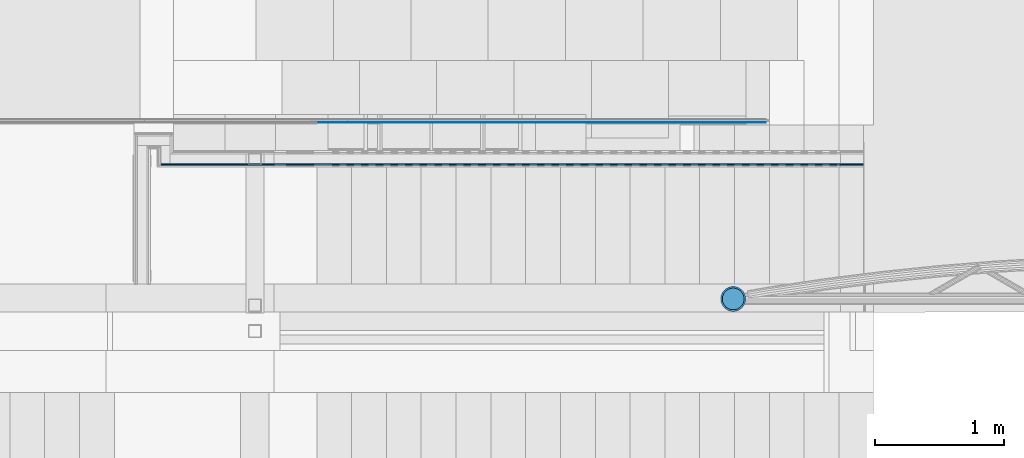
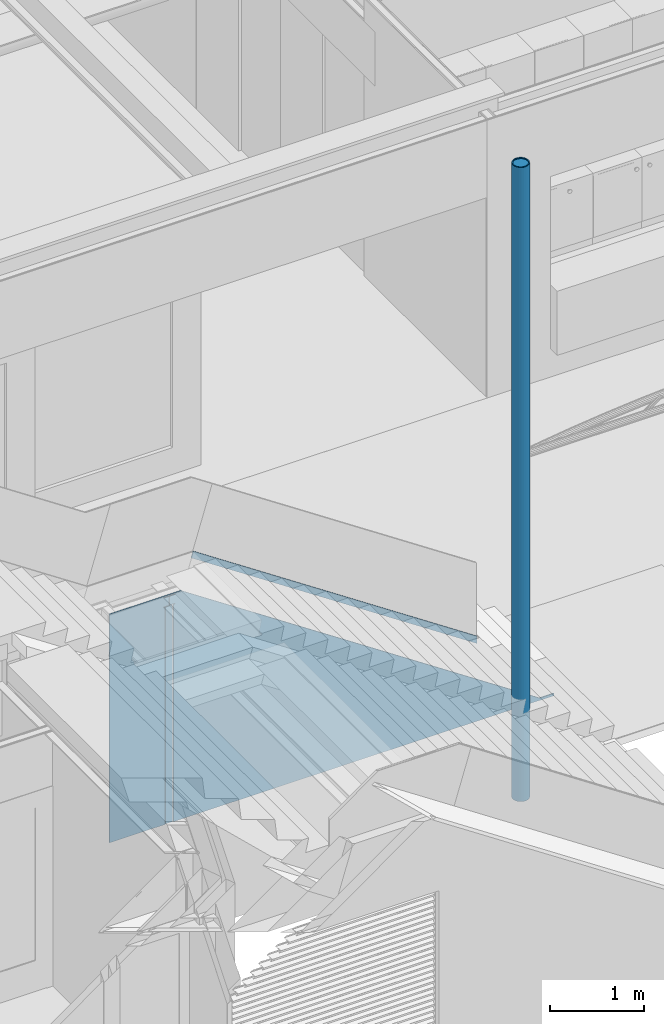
# One storey, part 61 of 165: 4 building element parts, 3 elements without a shape of their own.
"""IFC2X3 building model written with IfcOpenShell, lengths in millimetres."""

from ifc_helpers import new_model, entity, si_unit, converted_unit, derived_unit, money_unit, direction, frame, origin_with_axes, place, context, subcontext, project, spatial, faceted_brep, material, type_object, element, aggregate, save


model = new_model("IFC2X3")

# Units and contexts
model_context = context("Model", 3, precision=0.01, world=origin_with_axes(), true_north=direction((0.0, 1.0)))
body_context = subcontext(model_context, "Body", "Model", "MODEL_VIEW")
ifc_project = project(units=[si_unit("LENGTHUNIT", "METRE", prefix="MILLI"), si_unit("AREAUNIT", "SQUARE_METRE"), si_unit("VOLUMEUNIT", "CUBIC_METRE"), converted_unit("PLANEANGLEUNIT", "DEGREE", entity("IfcPlaneAngleMeasure", 0.0174532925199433), si_unit("PLANEANGLEUNIT", "RADIAN"), dimensions=[0, 0, 0, 0, 0, 0, 0]), money_unit("EUR"), converted_unit("TIMEUNIT", "Year", entity("IfcTimeMeasure", 31556926.0), si_unit("TIMEUNIT", "SECOND"), dimensions=[0, 0, 1, 0, 0, 0, 0]), si_unit("MASSUNIT", "GRAM", prefix="KILO"), si_unit("THERMODYNAMICTEMPERATUREUNIT", "DEGREE_CELSIUS"), si_unit("LUMINOUSINTENSITYUNIT", "LUMEN"), si_unit("ENERGYUNIT", "JOULE", prefix="MEGA"), derived_unit("THERMALCONDUCTANCEUNIT", [(si_unit("POWERUNIT", "WATT"), 1), (si_unit("LENGTHUNIT", "METRE"), -1), (si_unit("THERMODYNAMICTEMPERATUREUNIT", "KELVIN"), -1)]), derived_unit("SPECIFICHEATCAPACITYUNIT", [(si_unit("ENERGYUNIT", "JOULE"), 1), (si_unit("MASSUNIT", "GRAM", prefix="KILO"), -1), (si_unit("THERMODYNAMICTEMPERATUREUNIT", "KELVIN"), -1)]), derived_unit("MASSDENSITYUNIT", [(si_unit("MASSUNIT", "GRAM", prefix="KILO"), 1), (si_unit("VOLUMEUNIT", "CUBIC_METRE"), -1)])], contexts=[model_context])

# Site, building, storey
site_placement = place(None, origin_with_axes())
site = spatial("IfcSite", under=ifc_project, at=site_placement, Name="Site", CompositionType="ELEMENT")
building_placement = place(site_placement, origin_with_axes())
building = spatial("IfcBuilding", under=site, at=building_placement, Name="Naam gebouw", CompositionType="ELEMENT")
storey_placement = place(building_placement, origin_with_axes())
storey = spatial("IfcBuildingStorey", under=building, at=storey_placement, Name="Begane grond", CompositionType="ELEMENT", Elevation=0.0)

# Column, building element parts
column_type = type_object("IfcColumnType", Name="193.7X12.5 194 x 194", PredefinedType="COLUMN")
column_placement = place(storey_placement, frame((17699.99915210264, 4579.999999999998, -425.0), z_axis=(0.0, 0.0, 1.0), x_axis=(1.0, 0.0, 0.0)))
column = element("IfcColumn", 1, at=column_placement, inside=storey, type_object=column_type, Name="28_Kolom-x", ObjectType="COLUMN")
ifc_material_1 = material(Name="Beton gewapend C")
building_element_part_1_placement = place(column_placement, origin_with_axes())
building_element_part_1 = element("IfcBuildingElementPart", 2, at=building_element_part_1_placement, material=ifc_material_1, Name="Beton gewapend C", context=body_context, shape_type="Brep", body=[
    faceted_brep([(80.93323232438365, 23.76414116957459, 7959.999999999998), (84.35000000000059, 0.0, 7959.999999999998), (84.35000000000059, 0.0, 0.0), (80.93323232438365, 23.76414116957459, 0.0), (80.93323232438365, -23.76414116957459, 7959.999999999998), (70.95973549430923, 45.60305295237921, 7959.999999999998), (55.23750290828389, 63.74747659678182, 7959.999999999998), (35.04025634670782, 76.72745880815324, 7959.999999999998), (12.00425660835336, 83.49143862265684, 7959.999999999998), (-12.00425660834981, 83.49143862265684, 7959.999999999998), (-35.04025634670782, 76.72745880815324, 7959.999999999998), (-55.23750290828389, 63.74747659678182, 7959.999999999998), (-70.95973549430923, 45.6030529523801, 7959.999999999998), (-80.93323232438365, 23.76414116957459, 7959.999999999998), (-84.35000000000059, 0.0, 7959.999999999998), (-80.93323232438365, -23.76414116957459, 7959.999999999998), (-70.95973549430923, -45.60305295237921, 7959.999999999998), (-55.23750290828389, -63.74747659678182, 7959.999999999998), (-35.04025634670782, -76.72745880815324, 7959.999999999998), (-12.00425660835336, -83.49143862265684, 7959.999999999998), (12.00425660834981, -83.49143862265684, 7959.999999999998), (35.04025634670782, -76.72745880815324, 7959.999999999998), (55.23750290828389, -63.74747659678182, 7959.999999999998), (70.95973549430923, -45.6030529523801, 7959.999999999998), (80.93323232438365, -23.76414116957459, 0.0), (70.95973549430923, -45.6030529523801, 0.0), (55.23750290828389, -63.74747659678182, 0.0), (35.04025634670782, -76.72745880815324, 0.0), (12.00425660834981, -83.49143862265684, 0.0), (-12.00425660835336, -83.49143862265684, 0.0), (-35.04025634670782, -76.72745880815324, 0.0), (-55.23750290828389, -63.74747659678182, 0.0), (-70.95973549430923, -45.60305295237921, 0.0), (-80.93323232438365, -23.76414116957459, 0.0), (-84.35000000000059, 0.0, 0.0), (-80.93323232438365, 23.76414116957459, 0.0), (-70.95973549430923, 45.6030529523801, 0.0), (-55.23750290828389, 63.74747659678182, 0.0), (-35.04025634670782, 76.72745880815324, 0.0), (-12.00425660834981, 83.49143862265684, 0.0), (12.00425660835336, 83.49143862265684, 0.0), (35.04025634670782, 76.72745880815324, 0.0), (55.23750290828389, 63.74747659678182, 0.0), (70.95973549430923, 45.60305295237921, 0.0)], [[[0, 1, 2, 3]], [[4, 1, 0, 5, 6, 7, 8, 9, 10, 11, 12, 13, 14, 15, 16, 17, 18, 19, 20, 21, 22, 23]], [[1, 4, 24, 2]], [[3, 2, 24, 25, 26, 27, 28, 29, 30, 31, 32, 33, 34, 35, 36, 37, 38, 39, 40, 41, 42, 43]], [[5, 0, 3, 43]], [[6, 5, 43, 42]], [[7, 6, 42, 41]], [[8, 7, 41, 40]], [[9, 8, 40, 39]], [[10, 9, 39, 38]], [[11, 10, 38, 37]], [[12, 11, 37, 36]], [[13, 12, 36, 35]], [[14, 13, 35, 34]], [[15, 14, 34, 33]], [[16, 15, 33, 32]], [[17, 16, 32, 31]], [[18, 17, 31, 30]], [[19, 18, 30, 29]], [[20, 19, 29, 28]], [[21, 20, 28, 27]], [[22, 21, 27, 26]], [[23, 22, 26, 25]], [[4, 23, 25, 24]]]),
    faceted_brep([(84.35000000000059, 0.0, 8210.000002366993), (80.93323232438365, -23.76414116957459, 8210.000002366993), (80.93323232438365, -23.76414116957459, 7980.000029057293), (84.35000000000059, 0.0, 7980.000029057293), (80.93323232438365, 23.76414116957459, 8210.000002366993), (70.95973549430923, 45.60305295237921, 8210.000002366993), (55.23750290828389, 63.74747659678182, 8210.000002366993), (35.04025634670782, 76.72745880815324, 8210.000002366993), (12.00425660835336, 83.49143862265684, 8210.000002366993), (-12.00425660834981, 83.49143862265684, 8210.000002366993), (-35.04025634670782, 76.72745880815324, 8210.000002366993), (-55.23750290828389, 63.74747659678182, 8210.000002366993), (-70.95973549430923, 45.6030529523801, 8210.000002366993), (-80.93323232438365, 23.76414116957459, 8210.000002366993), (-84.35000000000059, 0.0, 8210.000002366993), (-80.93323232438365, -23.76414116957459, 8210.000002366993), (-70.95973549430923, -45.60305295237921, 8210.000002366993), (-55.23750290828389, -63.74747659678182, 8210.000002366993), (-35.04025634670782, -76.72745880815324, 8210.000002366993), (-12.00425660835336, -83.49143862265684, 8210.000002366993), (12.00425660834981, -83.49143862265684, 8210.000002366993), (35.04025634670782, -76.72745880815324, 8210.000002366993), (55.23750290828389, -63.74747659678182, 8210.000002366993), (70.95973549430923, -45.6030529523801, 8210.000002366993), (70.95973549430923, -45.6030529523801, 7980.000029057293), (80.93323232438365, 23.76414116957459, 7980.000029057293), (55.23750290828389, -63.74747659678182, 7980.000029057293), (35.04025634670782, -76.72745880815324, 7980.000029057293), (12.00425660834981, -83.49143862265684, 7980.000029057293), (-12.00425660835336, -83.49143862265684, 7980.000029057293), (-35.04025634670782, -76.72745880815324, 7980.000029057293), (-55.23750290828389, -63.74747659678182, 7980.000029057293), (-70.95973549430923, -45.60305295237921, 7980.000029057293), (-80.93323232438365, -23.76414116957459, 7980.000029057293), (-84.35000000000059, 0.0, 7980.000029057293), (-80.93323232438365, 23.76414116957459, 7980.000029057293), (-70.95973549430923, 45.6030529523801, 7980.000029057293), (-55.23750290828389, 63.74747659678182, 7980.000029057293), (-35.04025634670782, 76.72745880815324, 7980.000029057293), (-12.00425660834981, 83.49143862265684, 7980.000029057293), (12.00425660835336, 83.49143862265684, 7980.000029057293), (35.04025634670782, 76.72745880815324, 7980.000029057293), (55.23750290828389, 63.74747659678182, 7980.000029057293), (70.95973549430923, 45.60305295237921, 7980.000029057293)], [[[0, 1, 2, 3]], [[1, 0, 4, 5, 6, 7, 8, 9, 10, 11, 12, 13, 14, 15, 16, 17, 18, 19, 20, 21, 22, 23]], [[1, 23, 24, 2]], [[25, 3, 2, 24, 26, 27, 28, 29, 30, 31, 32, 33, 34, 35, 36, 37, 38, 39, 40, 41, 42, 43]], [[4, 0, 3, 25]], [[5, 4, 25, 43]], [[6, 5, 43, 42]], [[7, 6, 42, 41]], [[8, 7, 41, 40]], [[9, 8, 40, 39]], [[10, 9, 39, 38]], [[11, 10, 38, 37]], [[12, 11, 37, 36]], [[13, 12, 36, 35]], [[14, 13, 35, 34]], [[15, 14, 34, 33]], [[16, 15, 33, 32]], [[17, 16, 32, 31]], [[18, 17, 31, 30]], [[19, 18, 30, 29]], [[20, 19, 29, 28]], [[21, 20, 28, 27]], [[22, 21, 27, 26]], [[23, 22, 26, 24]]]),
])
ifc_material_2 = material(Name="Metaal - Staal C")
building_element_part_2_placement = place(column_placement, origin_with_axes())
building_element_part_2 = element("IfcBuildingElementPart", 3, at=building_element_part_2_placement, material=ifc_material_2, Name="Metaal - Staal C", context=body_context, shape_type="Brep", body=[
    faceted_brep([(96.84999999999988, 0.0, 0.0), (92.92689449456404, 27.28579813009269, 0.0), (92.92689449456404, 27.28579813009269, 8220.999999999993), (96.84999999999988, 0.0, 8220.999999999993), (92.92689449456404, -27.28579813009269, 0.0), (81.47540465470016, -52.36106317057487, 0.0), (63.42326208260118, -73.19434627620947, 0.0), (40.23294400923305, -88.0978587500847, 0.0), (13.78319208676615, -95.86420664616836, 0.0), (-13.78319208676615, -95.86420664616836, 0.0), (-40.23294400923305, -88.0978587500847, 0.0), (-63.42326208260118, -73.19434627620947, 0.0), (-81.47540465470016, -52.36106317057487, 0.0), (-92.92689449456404, -27.28579813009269, 0.0), (-96.84999999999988, 0.0, 0.0), (-92.92689449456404, 27.28579813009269, 0.0), (-81.47540465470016, 52.36106317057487, 0.0), (-63.42326208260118, 73.19434627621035, 0.0), (-40.23294400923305, 88.0978587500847, 0.0), (-13.78319208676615, 95.86420664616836, 0.0), (13.78319208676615, 95.86420664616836, 0.0), (40.23294400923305, 88.0978587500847, 0.0), (63.42326208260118, 73.19434627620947, 0.0), (81.47540465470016, 52.36106317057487, 0.0), (84.35000000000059, 0.0, 0.0), (80.93323232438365, 23.76414116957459, 0.0), (70.95973549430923, 45.6030529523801, 0.0), (55.23750290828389, 63.74747659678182, 0.0), (35.04025634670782, 76.72745880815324, 0.0), (12.00425660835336, 83.49143862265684, 0.0), (-12.00425660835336, 83.49143862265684, 0.0), (-35.04025634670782, 76.72745880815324, 0.0), (-55.23750290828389, 63.74747659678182, 0.0), (-70.95973549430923, 45.6030529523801, 0.0), (-80.93323232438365, 23.76414116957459, 0.0), (-84.35000000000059, 0.0, 0.0), (-80.93323232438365, -23.76414116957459, 0.0), (-70.95973549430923, -45.60305295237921, 0.0), (-55.23750290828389, -63.74747659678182, 0.0), (-35.04025634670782, -76.72745880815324, 0.0), (-12.00425660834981, -83.49143862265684, 0.0), (12.00425660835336, -83.49143862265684, 0.0), (35.04025634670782, -76.72745880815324, 0.0), (55.23750290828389, -63.74747659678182, 0.0), (70.95973549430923, -45.60305295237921, 0.0), (80.93323232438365, -23.76414116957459, 0.0), (81.47540465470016, 52.36106317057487, 8220.999999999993), (63.42326208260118, 73.19434627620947, 8220.999999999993), (40.23294400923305, 88.0978587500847, 8220.999999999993), (13.78319208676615, 95.86420664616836, 8220.999999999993), (-13.78319208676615, 95.86420664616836, 8220.999999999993), (-40.23294400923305, 88.0978587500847, 8220.999999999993), (-63.42326208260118, 73.19434627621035, 8220.999999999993), (-81.47540465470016, 52.36106317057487, 8220.999999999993), (-92.92689449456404, 27.28579813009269, 8220.999999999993), (-96.84999999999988, 0.0, 8220.999999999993), (-92.92689449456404, -27.28579813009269, 8220.999999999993), (-81.47540465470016, -52.36106317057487, 8220.999999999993), (-63.42326208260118, -73.19434627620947, 8220.999999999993), (-40.23294400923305, -88.0978587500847, 8220.999999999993), (-13.78319208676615, -95.86420664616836, 8220.999999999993), (13.78319208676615, -95.86420664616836, 8220.999999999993), (40.23294400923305, -88.0978587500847, 8220.999999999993), (63.42326208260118, -73.19434627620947, 8220.999999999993), (81.47540465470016, -52.36106317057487, 8220.999999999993), (92.92689449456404, -27.28579813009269, 8220.999999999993), (84.35000000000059, 0.0, 8220.999999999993), (80.93323232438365, -23.76414116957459, 8220.999999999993), (70.95973549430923, -45.60305295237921, 8220.999999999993), (55.23750290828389, -63.74747659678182, 8220.999999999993), (35.04025634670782, -76.72745880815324, 8220.999999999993), (12.00425660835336, -83.49143862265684, 8220.999999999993), (-12.00425660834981, -83.49143862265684, 8220.999999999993), (-35.04025634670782, -76.72745880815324, 8220.999999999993), (-55.23750290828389, -63.74747659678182, 8220.999999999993), (-70.95973549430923, -45.60305295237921, 8220.999999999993), (-80.93323232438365, -23.76414116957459, 8220.999999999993), (-84.35000000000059, 0.0, 8220.999999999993), (-80.93323232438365, 23.76414116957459, 8220.999999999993), (-70.95973549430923, 45.6030529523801, 8220.999999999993), (-55.23750290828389, 63.74747659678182, 8220.999999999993), (-35.04025634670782, 76.72745880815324, 8220.999999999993), (-12.00425660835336, 83.49143862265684, 8220.999999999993), (12.00425660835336, 83.49143862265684, 8220.999999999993), (35.04025634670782, 76.72745880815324, 8220.999999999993), (55.23750290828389, 63.74747659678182, 8220.999999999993), (70.95973549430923, 45.6030529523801, 8220.999999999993), (80.93323232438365, 23.76414116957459, 8220.999999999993)], [[[0, 1, 2, 3]], [[0, 4, 5, 6, 7, 8, 9, 10, 11, 12, 13, 14, 15, 16, 17, 18, 19, 20, 21, 22, 23, 1], [24, 25, 26, 27, 28, 29, 30, 31, 32, 33, 34, 35, 36, 37, 38, 39, 40, 41, 42, 43, 44, 45]], [[1, 23, 46, 2]], [[3, 2, 46, 47, 48, 49, 50, 51, 52, 53, 54, 55, 56, 57, 58, 59, 60, 61, 62, 63, 64, 65], [66, 67, 68, 69, 70, 71, 72, 73, 74, 75, 76, 77, 78, 79, 80, 81, 82, 83, 84, 85, 86, 87]], [[4, 0, 3, 65]], [[5, 4, 65, 64]], [[6, 5, 64, 63]], [[7, 6, 63, 62]], [[8, 7, 62, 61]], [[9, 8, 61, 60]], [[10, 9, 60, 59]], [[11, 10, 59, 58]], [[12, 11, 58, 57]], [[13, 12, 57, 56]], [[14, 13, 56, 55]], [[15, 14, 55, 54]], [[16, 15, 54, 53]], [[17, 16, 53, 52]], [[18, 17, 52, 51]], [[19, 18, 51, 50]], [[20, 19, 50, 49]], [[21, 20, 49, 48]], [[22, 21, 48, 47]], [[23, 22, 47, 46]], [[25, 24, 66, 87]], [[26, 25, 87, 86]], [[27, 26, 86, 85]], [[28, 27, 85, 84]], [[29, 28, 84, 83]], [[30, 29, 83, 82]], [[31, 30, 82, 81]], [[32, 31, 81, 80]], [[33, 32, 80, 79]], [[34, 33, 79, 78]], [[35, 34, 78, 77]], [[36, 35, 77, 76]], [[37, 36, 76, 75]], [[38, 37, 75, 74]], [[39, 38, 74, 73]], [[40, 39, 73, 72]], [[41, 40, 72, 71]], [[42, 41, 71, 70]], [[43, 42, 70, 69]], [[44, 43, 69, 68]], [[45, 44, 68, 67]], [[24, 45, 67, 66]]]),
])
aggregate(column, [building_element_part_1, building_element_part_2])

# Proxy, building element part
building_element_proxy_type = type_object("IfcBuildingElementProxyType", Name="22 Metal stud 125 oregon pine 125", PredefinedType="NOTDEFINED")
proxy_placement = place(storey_placement, frame((13358.57015757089, 5730.000004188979, -100.0), z_axis=(0.0, 0.0, 1.0), x_axis=(1.0, 0.0, 0.0)))
proxy = element("IfcBuildingElementProxy", 4, at=proxy_placement, inside=storey, type_object=building_element_proxy_type, Name="_Wand-x")
ifc_material_3 = material(Name="Gipsplaat")
building_element_part_3_placement = place(proxy_placement, origin_with_axes())
building_element_part_3 = element("IfcBuildingElementPart", 5, at=building_element_part_3_placement, material=ifc_material_3, Name="Gipsplaat", context=body_context, shape_type="Brep", body=[
    faceted_brep([(5161.429874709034, -99.99999999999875, 38.1601360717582), (5173.670078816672, -99.99999999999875, 29.99999999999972), (5351.427797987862, -99.99999999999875, 29.99999999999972), (5351.427797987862, -99.99999999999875, 0.0), (681.4298424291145, -99.99999999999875, 0.0), (681.4298424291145, -99.99999999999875, 2816.999999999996), (701.4298424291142, -99.99999999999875, 2816.999999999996), (701.4298424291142, -99.99999999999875, 2825.499999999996), (634.1798424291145, -99.99999999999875, 2825.499999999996), (634.1798424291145, -99.99999999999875, 2941.499999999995), (701.4298424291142, -99.99999999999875, 2941.499999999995), (701.4298424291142, -99.99999999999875, 2949.999999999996), (561.4298424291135, -99.99999999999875, 2949.999999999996), (561.4298424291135, -99.99999999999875, 2941.499999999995), (628.6798424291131, -99.99999999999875, 2941.499999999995), (628.6798424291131, -99.99999999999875, 2825.499999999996), (561.4298424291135, -99.99999999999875, 2825.499999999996), (561.4298424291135, -99.99999999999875, 2816.999999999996), (581.4298424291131, -99.99999999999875, 2816.999999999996), (581.4298424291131, -99.99999999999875, 0.0), (-99.99999999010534, -99.99999999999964, 0.0), (-99.99999999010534, -99.99999999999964, 2960.0), (778.6700794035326, -99.99999999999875, 2959.999998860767), (1201.429874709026, -99.99999999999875, 2678.160136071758), (1291.429874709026, -99.99999999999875, 2618.160136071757), (1381.429874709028, -99.99999999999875, 2558.160136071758), (1471.429874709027, -99.99999999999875, 2498.160136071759), (1561.429874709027, -99.99999999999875, 2438.160136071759), (1651.429874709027, -99.99999999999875, 2378.160136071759), (1741.429874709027, -99.99999999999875, 2318.160136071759), (1831.429874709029, -99.99999999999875, 2258.160136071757), (1921.429874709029, -99.99999999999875, 2198.160136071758), (2011.429874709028, -99.99999999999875, 2138.160136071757), (2101.429874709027, -99.99999999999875, 2078.160136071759), (2191.429874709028, -99.99999999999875, 2018.160136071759), (2281.42987470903, -99.99999999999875, 1958.160136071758), (2371.429874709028, -99.99999999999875, 1898.160136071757), (2461.429874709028, -99.99999999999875, 1838.160136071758), (2551.429874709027, -99.99999999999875, 1778.160136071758), (2641.429874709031, -99.99999999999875, 1718.160136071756), (2731.429874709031, -99.99999999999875, 1658.160136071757), (2821.429874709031, -99.99999999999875, 1598.160136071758), (2911.429874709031, -99.99999999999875, 1538.160136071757), (3001.429874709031, -99.99999999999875, 1478.160136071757), (3091.42987470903, -99.99999999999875, 1418.160136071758), (3181.429874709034, -99.99999999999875, 1358.160136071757), (3271.429874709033, -99.99999999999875, 1298.160136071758), (3361.429874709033, -99.99999999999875, 1238.160136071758), (3451.429874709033, -99.99999999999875, 1178.160136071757), (3541.429874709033, -99.99999999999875, 1118.160136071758), (3631.429874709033, -99.99999999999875, 1058.160136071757), (3721.429874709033, -99.99999999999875, 998.1601360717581), (3811.429874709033, -99.99999999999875, 938.1601360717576), (3901.429874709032, -99.99999999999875, 878.1601360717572), (3991.429874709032, -99.99999999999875, 818.1601360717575), (4081.429874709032, -99.99999999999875, 758.160136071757), (4171.429874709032, -99.99999999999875, 698.1601360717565), (4261.429874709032, -99.99999999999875, 638.1601360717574), (4351.429874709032, -99.99999999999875, 578.1601360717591), (4441.429874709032, -99.99999999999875, 518.1601360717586), (4531.429874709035, -99.99999999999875, 458.1601360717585), (4621.429874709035, -99.99999999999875, 398.1601360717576), (4711.429874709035, -99.99999999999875, 338.1601360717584), (4801.429874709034, -99.99999999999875, 278.1601360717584), (4891.429874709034, -99.99999999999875, 218.1601360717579), (4981.429874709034, -99.99999999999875, 158.1601360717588), (5071.429874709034, -99.99999999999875, 98.16013607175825), (5161.429875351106, -112.4999999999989, 38.1601360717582), (5173.670079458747, -112.4999999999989, 29.99999999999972), (5351.427797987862, -112.4999999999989, 29.99999999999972), (5351.427797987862, -112.4999999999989, 0.0), (681.4298424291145, -112.4999999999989, 0.0), (681.4298424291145, -112.4999999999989, 2816.999999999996), (701.4298424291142, -112.4999999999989, 2816.999999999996), (701.4298424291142, -112.4999999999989, 2825.499999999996), (634.1798424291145, -112.4999999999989, 2825.499999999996), (634.1798424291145, -112.4999999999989, 2941.499999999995), (701.4298424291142, -112.4999999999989, 2941.499999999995), (701.4298424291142, -112.4999999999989, 2949.999999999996), (561.4298424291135, -112.4999999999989, 2949.999999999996), (561.4298424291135, -112.4999999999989, 2941.499999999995), (628.6798424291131, -112.4999999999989, 2941.499999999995), (628.6798424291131, -112.4999999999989, 2825.499999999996), (561.4298424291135, -112.4999999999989, 2825.499999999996), (561.4298424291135, -112.4999999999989, 2816.999999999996), (581.4298424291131, -112.4999999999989, 2816.999999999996), (581.4298424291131, -112.4999999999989, 0.0), (-99.99999998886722, -112.4999999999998, 0.0), (-99.99999998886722, -112.4999999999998, 2960.0), (778.6700799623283, -112.4999999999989, 2959.99999887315), (1201.429875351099, -112.4999999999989, 2678.160136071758), (1291.429875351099, -112.4999999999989, 2618.160136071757), (1381.429875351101, -112.4999999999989, 2558.160136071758), (1471.429875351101, -112.4999999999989, 2498.160136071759), (1561.4298753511, -112.4999999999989, 2438.160136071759), (1651.4298753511, -112.4999999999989, 2378.160136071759), (1741.4298753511, -112.4999999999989, 2318.160136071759), (1831.429875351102, -112.4999999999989, 2258.160136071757), (1921.429875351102, -112.4999999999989, 2198.160136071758), (2011.429875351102, -112.4999999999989, 2138.160136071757), (2101.429875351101, -112.4999999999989, 2078.160136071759), (2191.429875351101, -112.4999999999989, 2018.160136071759), (2281.429875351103, -112.4999999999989, 1958.160136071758), (2371.429875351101, -112.4999999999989, 1898.160136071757), (2461.429875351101, -112.4999999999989, 1838.160136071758), (2551.429875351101, -112.4999999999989, 1778.160136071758), (2641.429875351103, -112.4999999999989, 1718.160136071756), (2731.429875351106, -112.4999999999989, 1658.160136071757), (2821.429875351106, -112.4999999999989, 1598.160136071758), (2911.429875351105, -112.4999999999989, 1538.160136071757), (3001.429875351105, -112.4999999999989, 1478.160136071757), (3091.429875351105, -112.4999999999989, 1418.160136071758), (3181.429875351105, -112.4999999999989, 1358.160136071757), (3271.429875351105, -112.4999999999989, 1298.160136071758), (3361.429875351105, -112.4999999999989, 1238.160136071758), (3451.429875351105, -112.4999999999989, 1178.160136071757), (3541.429875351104, -112.4999999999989, 1118.160136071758), (3631.429875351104, -112.4999999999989, 1058.160136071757), (3721.429875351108, -112.4999999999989, 998.1601360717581), (3811.429875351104, -112.4999999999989, 938.1601360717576), (3901.429875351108, -112.4999999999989, 878.1601360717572), (3991.429875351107, -112.4999999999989, 818.1601360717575), (4081.429875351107, -112.4999999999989, 758.160136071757), (4171.429875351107, -112.4999999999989, 698.1601360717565), (4261.429875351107, -112.4999999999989, 638.1601360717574), (4351.429875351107, -112.4999999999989, 578.1601360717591), (4441.429875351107, -112.4999999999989, 518.1601360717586), (4531.429875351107, -112.4999999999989, 458.1601360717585), (4621.429875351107, -112.4999999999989, 398.1601360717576), (4711.429875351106, -112.4999999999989, 338.1601360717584), (4801.429875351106, -112.4999999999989, 278.1601360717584), (4891.429875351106, -112.4999999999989, 218.1601360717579), (4981.429875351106, -112.4999999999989, 158.1601360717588), (5071.429875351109, -112.4999999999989, 98.16013607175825)], [[[0, 1, 2, 3, 4, 5, 6, 7, 8, 9, 10, 11, 12, 13, 14, 15, 16, 17, 18, 19, 20, 21, 22, 23, 24, 25, 26, 27, 28, 29, 30, 31, 32, 33, 34, 35, 36, 37, 38, 39, 40, 41, 42, 43, 44, 45, 46, 47, 48, 49, 50, 51, 52, 53, 54, 55, 56, 57, 58, 59, 60, 61, 62, 63, 64, 65, 66]], [[1, 0, 67, 68]], [[69, 2, 1, 68]], [[2, 69, 70, 3]], [[70, 71, 4, 3]], [[71, 72, 5, 4]], [[6, 5, 72, 73]], [[73, 74, 7, 6]], [[74, 75, 8, 7]], [[75, 76, 9, 8]], [[76, 77, 10, 9]], [[77, 78, 11, 10]], [[78, 79, 12, 11]], [[79, 80, 13, 12]], [[80, 81, 14, 13]], [[81, 82, 15, 14]], [[82, 83, 16, 15]], [[83, 84, 17, 16]], [[84, 85, 18, 17]], [[86, 19, 18, 85]], [[20, 19, 86, 87]], [[88, 21, 20, 87]], [[22, 21, 88, 89]], [[23, 22, 89, 90]], [[24, 23, 90, 91]], [[25, 24, 91, 92]], [[26, 25, 92, 93]], [[27, 26, 93, 94]], [[28, 27, 94, 95]], [[29, 28, 95, 96]], [[30, 29, 96, 97]], [[31, 30, 97, 98]], [[32, 31, 98, 99]], [[33, 32, 99, 100]], [[34, 33, 100, 101]], [[35, 34, 101, 102]], [[36, 35, 102, 103]], [[37, 36, 103, 104]], [[38, 37, 104, 105]], [[39, 38, 105, 106]], [[40, 39, 106, 107]], [[41, 40, 107, 108]], [[42, 41, 108, 109]], [[43, 42, 109, 110]], [[44, 43, 110, 111]], [[45, 44, 111, 112]], [[46, 45, 112, 113]], [[47, 46, 113, 114]], [[48, 47, 114, 115]], [[49, 48, 115, 116]], [[50, 49, 116, 117]], [[51, 50, 117, 118]], [[52, 51, 118, 119]], [[53, 52, 119, 120]], [[54, 53, 120, 121]], [[55, 54, 121, 122]], [[56, 55, 122, 123]], [[57, 56, 123, 124]], [[58, 57, 124, 125]], [[59, 58, 125, 126]], [[60, 59, 126, 127]], [[61, 60, 127, 128]], [[62, 61, 128, 129]], [[63, 62, 129, 130]], [[64, 63, 130, 131]], [[65, 64, 131, 132]], [[66, 65, 132, 133]], [[0, 66, 133, 67]], [[89, 88, 87, 86, 85, 84, 83, 82, 81, 80, 79, 78, 77, 76, 75, 74, 73, 72, 71, 70, 69, 68, 67, 133, 132, 131, 130, 129, 128, 127, 126, 125, 124, 123, 122, 121, 120, 119, 118, 117, 116, 115, 114, 113, 112, 111, 110, 109, 108, 107, 106, 105, 104, 103, 102, 101, 100, 99, 98, 97, 96, 95, 94, 93, 92, 91, 90]]]),
    faceted_brep([(587.4298424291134, -99.99999999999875, 2816.999999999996), (587.4298424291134, -106.4999999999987, 2816.999999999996), (675.4298424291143, -106.4999999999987, 2816.999999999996), (675.4298424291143, -99.99999999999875, 2816.999999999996), (587.4298424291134, -106.4999999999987, 0.0), (587.4298424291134, -99.99999999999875, 0.0), (675.4298424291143, -106.4999999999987, 0.0), (675.4298424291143, -99.99999999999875, 0.0)], [[[0, 1, 2, 3]], [[4, 1, 0, 5]], [[6, 2, 1, 4]], [[6, 7, 3, 2]], [[7, 5, 0, 3]], [[6, 4, 5, 7]]]),
])
aggregate(proxy, [building_element_part_3])

# Beam, building element part
beam_type = type_object("IfcBeamType", Name="34 Glas balustrade binnen 50 x 1800", PredefinedType="BEAM")
beam_placement = place(storey_placement, frame((17980.00001687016, 5930.000235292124, 719.9999999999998), z_axis=(0.0, 0.0, 1.0), x_axis=(1.118256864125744e-08, 1.0, 0.0)))
beam = element("IfcBeam", 6, at=beam_placement, inside=storey, type_object=beam_type, Name="_Regenwaterafvoer-x", ObjectType="BEAM")
ifc_material_4 = material(Name="Glas")
building_element_part_4_placement = place(beam_placement, origin_with_axes())
building_element_part_4 = element("IfcBuildingElementPart", 7, at=building_element_part_4_placement, material=ifc_material_4, Name="Glas", context=body_context, shape_type="Brep", body=[
    faceted_brep([(14.99996524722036, 25.98075895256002, -79.10393726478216), (14.99996524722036, 25.98075895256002, 17.32052191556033), (14.99999940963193, 3510.000000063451, 2340.000000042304), (14.99999940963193, 3534.291689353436, 2259.770000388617), (19.73936080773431, 28.19077576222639, 18.79385050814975), (19.73936080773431, 28.19077576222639, -77.63060867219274), (19.99999940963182, 28.26061368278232, 18.84040912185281), (19.99999940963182, 3509.999999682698, 2339.999999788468), (19.99999940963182, 3534.291688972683, 2259.770000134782), (19.99999940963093, 28.26061368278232, -77.58405005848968)], [[[0, 1, 2, 3]], [[4, 1, 0, 5]], [[4, 6, 7, 2, 1]], [[8, 3, 2, 7]], [[5, 0, 3, 8, 9]], [[6, 4, 5, 9]], [[6, 9, 8, 7]]]),
])
aggregate(beam, [building_element_part_4])

save(model, "model.ifc")
